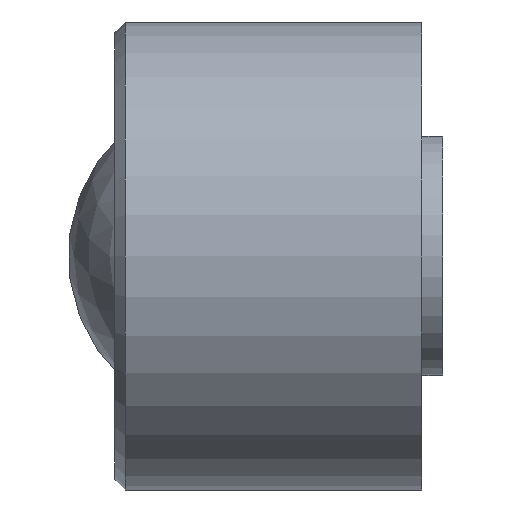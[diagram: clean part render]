
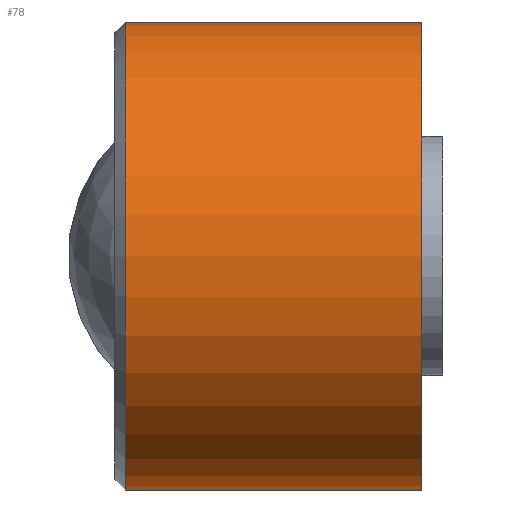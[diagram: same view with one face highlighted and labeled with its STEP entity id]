
A CAD part, left-side view. The second image highlights one B-rep face of the part: STEP entity #78.
In plain terms, the highlighted cylindrical face has radius 22.5 mm (diameter 45 mm), a full revolution.
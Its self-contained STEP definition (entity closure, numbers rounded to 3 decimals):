
#78 = ADVANCED_FACE( '', ( #99, #100, #101 ), #102, .T. );
#99 = FACE_OUTER_BOUND( '', #141, .T. );
#100 = FACE_BOUND( '', #142, .T. );
#101 = FACE_OUTER_BOUND( '', #143, .T. );
#102 = CYLINDRICAL_SURFACE( '', #144, 22.5 );
#141 = EDGE_LOOP( '', ( #189 ) );
#142 = EDGE_LOOP( '', ( #190 ) );
#143 = EDGE_LOOP( '', ( #191 ) );
#144 = AXIS2_PLACEMENT_3D( '', #192, #193, #194 );
#189 = ORIENTED_EDGE( '', *, *, #249, .F. );
#190 = ORIENTED_EDGE( '', *, *, #250, .F. );
#191 = ORIENTED_EDGE( '', *, *, #251, .T. );
#192 = CARTESIAN_POINT( '', ( 0., 0., 0. ) );
#193 = DIRECTION( '', ( 0., 1., 0. ) );
#194 = DIRECTION( '', ( 0., 0., -1. ) );
#249 = EDGE_CURVE( '', #267, #267, #268, .T. );
#250 = EDGE_CURVE( '', #269, #269, #270, .T. );
#251 = EDGE_CURVE( '', #271, #271, #272, .T. );
#267 = VERTEX_POINT( '', #293 );
#268 = CIRCLE( '', #294, 22.5 );
#269 = VERTEX_POINT( '', #295 );
#270 = B_SPLINE_CURVE_WITH_KNOTS( '', 3, ( #296, #297, #298, #299, #300, #301, #302, #303, #304, #305, #306, #307, #308, #309, #310, #311, #312, #313, #314, #315, #316, #317, #318, #319, #320, #321, #322, #323, #324, #325, #326, #327, #328, #329, #330, #331, #332, #333, #334, #335, #336, #337, #338, #339, #340, #341, #342, #343, #344, #345, #346, #347, #348, #349, #350, #351, #352, #353, #354, #355, #356, #357, #358, #359, #360, #361, #362, #363, #364, #365, #366, #367, #368, #369, #370, #371, #372, #373, #374, #375, #376, #377, #378, #379 ), .UNSPECIFIED., .T., .F., ( 2, 2, 2, 2, 2, 2, 2, 2, 2, 2, 2, 2, 2, 2, 2, 2, 2, 2, 2, 2, 2, 2, 2, 2, 2, 2, 2, 2, 2, 2, 2, 2, 2, 2, 2, 2, 2, 2, 2, 2, 2, 2, 2, 2 ), ( -0.001, 0., 0.001, 0.002, 0.002, 0.004, 0.004, 0.005, 0.006, 0.007, 0.008, 0.008, 0.009, 0.011, 0.012, 0.012, 0.013, 0.014, 0.014, 0.015, 0.016, 0.018, 0.018, 0.019, 0.02, 0.021, 0.022, 0.024, 0.024, 0.025, 0.026, 0.027, 0.028, 0.028, 0.029, 0.031, 0.032, 0.033, 0.034, 0.034, 0.035, 0.037, 0.038, 0.039 ), .UNSPECIFIED. );
#271 = VERTEX_POINT( '', #380 );
#272 = CIRCLE( '', #381, 22.5 );
#293 = CARTESIAN_POINT( '', ( 0., 2., -22.5 ) );
#294 = AXIS2_PLACEMENT_3D( '', #406, #407, #408 );
#295 = CARTESIAN_POINT( '', ( 21.685, 20., 6. ) );
#296 = CARTESIAN_POINT( '', ( 21.685, 20.398, 6. ) );
#297 = CARTESIAN_POINT( '', ( 21.685, 19.602, 6. ) );
#298 = CARTESIAN_POINT( '', ( 21.696, 19.21, 5.961 ) );
#299 = CARTESIAN_POINT( '', ( 21.727, 18.633, 5.846 ) );
#300 = CARTESIAN_POINT( '', ( 21.74, 18.443, 5.798 ) );
#301 = CARTESIAN_POINT( '', ( 21.771, 18.065, 5.683 ) );
#302 = CARTESIAN_POINT( '', ( 21.788, 17.878, 5.616 ) );
#303 = CARTESIAN_POINT( '', ( 21.846, 17.334, 5.389 ) );
#304 = CARTESIAN_POINT( '', ( 21.891, 16.99, 5.205 ) );
#305 = CARTESIAN_POINT( '', ( 21.965, 16.502, 4.878 ) );
#306 = CARTESIAN_POINT( '', ( 21.991, 16.343, 4.761 ) );
#307 = CARTESIAN_POINT( '', ( 22.044, 16.039, 4.511 ) );
#308 = CARTESIAN_POINT( '', ( 22.07, 15.895, 4.38 ) );
#309 = CARTESIAN_POINT( '', ( 22.149, 15.482, 3.967 ) );
#310 = CARTESIAN_POINT( '', ( 22.202, 15.234, 3.666 ) );
#311 = CARTESIAN_POINT( '', ( 22.3, 14.795, 3.011 ) );
#312 = CARTESIAN_POINT( '', ( 22.345, 14.61, 2.664 ) );
#313 = CARTESIAN_POINT( '', ( 22.4, 14.385, 2.123 ) );
#314 = CARTESIAN_POINT( '', ( 22.417, 14.319, 1.939 ) );
#315 = CARTESIAN_POINT( '', ( 22.446, 14.204, 1.563 ) );
#316 = CARTESIAN_POINT( '', ( 22.459, 14.155, 1.369 ) );
#317 = CARTESIAN_POINT( '', ( 22.49, 14.039, 0.788 ) );
#318 = CARTESIAN_POINT( '', ( 22.5, 14., 0.397 ) );
#319 = CARTESIAN_POINT( '', ( 22.5, 14., -0.39 ) );
#320 = CARTESIAN_POINT( '', ( 22.489, 14.039, -0.789 ) );
#321 = CARTESIAN_POINT( '', ( 22.449, 14.193, -1.56 ) );
#322 = CARTESIAN_POINT( '', ( 22.42, 14.307, -1.935 ) );
#323 = CARTESIAN_POINT( '', ( 22.363, 14.534, -2.482 ) );
#324 = CARTESIAN_POINT( '', ( 22.343, 14.619, -2.661 ) );
#325 = CARTESIAN_POINT( '', ( 22.299, 14.804, -3.007 ) );
#326 = CARTESIAN_POINT( '', ( 22.276, 14.905, -3.174 ) );
#327 = CARTESIAN_POINT( '', ( 22.227, 15.121, -3.498 ) );
#328 = CARTESIAN_POINT( '', ( 22.202, 15.238, -3.655 ) );
#329 = CARTESIAN_POINT( '', ( 22.15, 15.486, -3.957 ) );
#330 = CARTESIAN_POINT( '', ( 22.123, 15.619, -4.104 ) );
#331 = CARTESIAN_POINT( '', ( 22.043, 16.035, -4.52 ) );
#332 = CARTESIAN_POINT( '', ( 21.99, 16.336, -4.767 ) );
#333 = CARTESIAN_POINT( '', ( 21.892, 16.984, -5.202 ) );
#334 = CARTESIAN_POINT( '', ( 21.845, 17.336, -5.39 ) );
#335 = CARTESIAN_POINT( '', ( 21.769, 18.059, -5.691 ) );
#336 = CARTESIAN_POINT( '', ( 21.738, 18.433, -5.805 ) );
#337 = CARTESIAN_POINT( '', ( 21.707, 19.013, -5.922 ) );
#338 = CARTESIAN_POINT( '', ( 21.699, 19.211, -5.951 ) );
#339 = CARTESIAN_POINT( '', ( 21.688, 19.605, -5.99 ) );
#340 = CARTESIAN_POINT( '', ( 21.685, 19.801, -6. ) );
#341 = CARTESIAN_POINT( '', ( 21.685, 20.39, -6. ) );
#342 = CARTESIAN_POINT( '', ( 21.696, 20.782, -5.962 ) );
#343 = CARTESIAN_POINT( '', ( 21.738, 21.562, -5.807 ) );
#344 = CARTESIAN_POINT( '', ( 21.769, 21.937, -5.692 ) );
#345 = CARTESIAN_POINT( '', ( 21.845, 22.66, -5.392 ) );
#346 = CARTESIAN_POINT( '', ( 21.891, 23.011, -5.204 ) );
#347 = CARTESIAN_POINT( '', ( 21.99, 23.662, -4.769 ) );
#348 = CARTESIAN_POINT( '', ( 22.043, 23.963, -4.522 ) );
#349 = CARTESIAN_POINT( '', ( 22.122, 24.378, -4.108 ) );
#350 = CARTESIAN_POINT( '', ( 22.149, 24.511, -3.961 ) );
#351 = CARTESIAN_POINT( '', ( 22.201, 24.76, -3.658 ) );
#352 = CARTESIAN_POINT( '', ( 22.227, 24.877, -3.501 ) );
#353 = CARTESIAN_POINT( '', ( 22.299, 25.202, -3.015 ) );
#354 = CARTESIAN_POINT( '', ( 22.344, 25.387, -2.671 ) );
#355 = CARTESIAN_POINT( '', ( 22.419, 25.691, -1.941 ) );
#356 = CARTESIAN_POINT( '', ( 22.449, 25.806, -1.564 ) );
#357 = CARTESIAN_POINT( '', ( 22.479, 25.921, -0.987 ) );
#358 = CARTESIAN_POINT( '', ( 22.487, 25.951, -0.793 ) );
#359 = CARTESIAN_POINT( '', ( 22.497, 25.99, -0.4 ) );
#360 = CARTESIAN_POINT( '', ( 22.5, 26., -0.201 ) );
#361 = CARTESIAN_POINT( '', ( 22.5, 26., 0.393 ) );
#362 = CARTESIAN_POINT( '', ( 22.49, 25.962, 0.784 ) );
#363 = CARTESIAN_POINT( '', ( 22.45, 25.808, 1.555 ) );
#364 = CARTESIAN_POINT( '', ( 22.419, 25.692, 1.938 ) );
#365 = CARTESIAN_POINT( '', ( 22.345, 25.391, 2.662 ) );
#366 = CARTESIAN_POINT( '', ( 22.301, 25.207, 3.007 ) );
#367 = CARTESIAN_POINT( '', ( 22.203, 24.77, 3.662 ) );
#368 = CARTESIAN_POINT( '', ( 22.15, 24.52, 3.965 ) );
#369 = CARTESIAN_POINT( '', ( 22.07, 24.107, 4.378 ) );
#370 = CARTESIAN_POINT( '', ( 22.044, 23.963, 4.509 ) );
#371 = CARTESIAN_POINT( '', ( 21.992, 23.661, 4.758 ) );
#372 = CARTESIAN_POINT( '', ( 21.966, 23.502, 4.876 ) );
#373 = CARTESIAN_POINT( '', ( 21.891, 23.012, 5.204 ) );
#374 = CARTESIAN_POINT( '', ( 21.846, 22.669, 5.388 ) );
#375 = CARTESIAN_POINT( '', ( 21.769, 21.946, 5.689 ) );
#376 = CARTESIAN_POINT( '', ( 21.738, 21.563, 5.806 ) );
#377 = CARTESIAN_POINT( '', ( 21.696, 20.791, 5.961 ) );
#378 = CARTESIAN_POINT( '', ( 21.685, 20.398, 6. ) );
#379 = CARTESIAN_POINT( '', ( 21.685, 19.602, 6. ) );
#380 = CARTESIAN_POINT( '', ( 0., 30.5, -22.5 ) );
#381 = AXIS2_PLACEMENT_3D( '', #409, #410, #411 );
#406 = CARTESIAN_POINT( '', ( 0., 2., 0. ) );
#407 = DIRECTION( '', ( 0., -1., 0. ) );
#408 = DIRECTION( '', ( 0., 0., -1. ) );
#409 = CARTESIAN_POINT( '', ( 0., 30.5, 0. ) );
#410 = DIRECTION( '', ( 0., -1., 0. ) );
#411 = DIRECTION( '', ( 0., 0., -1. ) );
